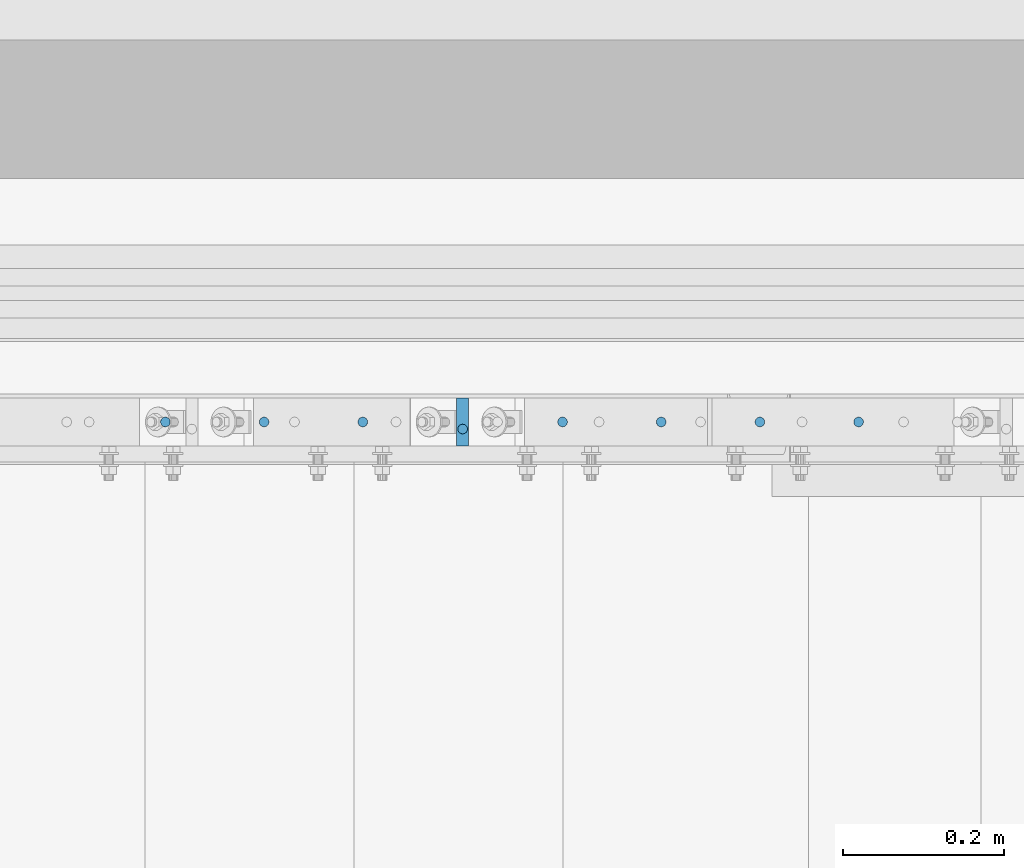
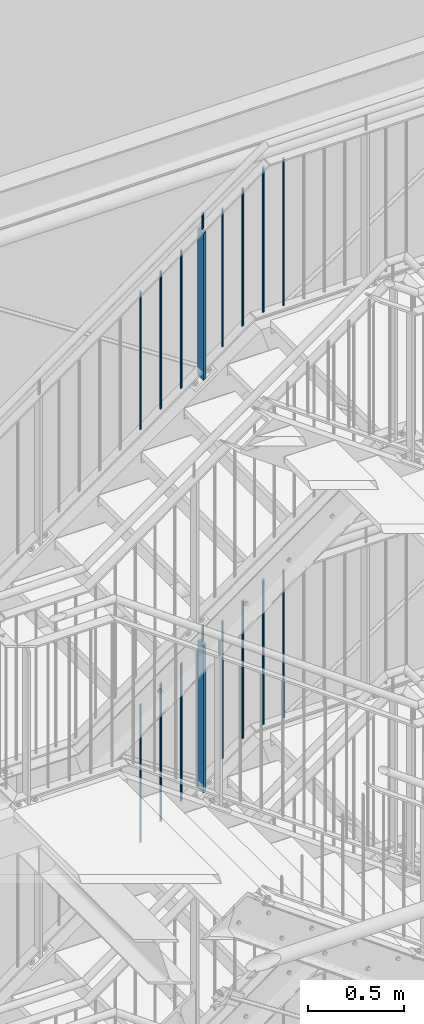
# One storey, part 81 of 825: 18 columns.
"""IFC2X3 building model written with IfcOpenShell, lengths in millimetres."""

from ifc_helpers import new_model, entity, si_unit, converted_unit, frame, origin, origin_with_axes, origin_2d, place, context, project, spatial, rectangle, circle, extrude, clip, halfspace, material, element, save


model = new_model("IFC2X3")

# Units and contexts
model_context = context("Model", 3, precision=1e-09, world=origin_with_axes())
ifc_project = project(units=[si_unit("LENGTHUNIT", "METRE", prefix="MILLI"), si_unit("AREAUNIT", "SQUARE_METRE"), si_unit("VOLUMEUNIT", "CUBIC_METRE"), converted_unit("PLANEANGLEUNIT", "DEGREE", entity("IfcPlaneAngleMeasure", 0.01745329), si_unit("PLANEANGLEUNIT", "RADIAN"), dimensions=[0, 0, 0, 0, 0, 0, 0])], contexts=[model_context])

# Site, building, storey
site_placement = place(None, origin_with_axes())
site = spatial("IfcSite", under=ifc_project, at=site_placement, Name="Cnopf'sche Kinderklinik", CompositionType="ELEMENT")
building_placement = place(site_placement, origin_with_axes())
building = spatial("IfcBuilding", under=site, at=building_placement, Name="Struktur 1", CompositionType="ELEMENT")
storey_placement = place(building_placement, origin_with_axes())
storey = spatial("IfcBuildingStorey", under=building, at=storey_placement, Name="Default Storey", CompositionType="ELEMENT", Elevation=0.0)

# Columns
ifc_material = material(Name="S235JR")
column_1_placement = place(None, frame((6671.713688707, 7356.736971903, 14657.456683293), z_axis=(0.0, 0.0, 1.0), x_axis=(1.0, 0.0, 0.0)))
element("IfcColumn", 1, at=column_1_placement, inside=storey, material=ifc_material, Name="Railing_Post_Stair#2", ObjectType="Railing_Post_Stair#2", context=model_context, shape_type="Clipping", body=[
    clip(clip(extrude(rectangle(XDim=15.0, YDim=60.0, at=origin_2d()), origin(), (0.0, 0.0, -1.0), 1013.143391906), halfspace(frame((-10876.723339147, -7356.736971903, -8848.638798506), z_axis=(-0.586383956, 0.0, 0.810033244), x_axis=(0.0, -1.0, 0.0)), True)), halfspace(frame((-11321.689805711, -7356.736971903, -8233.960264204), z_axis=(0.586383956, 0.0, -0.810033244), x_axis=(0.0, 1.0, 0.0)), True)),
])
column_2_placement = place(None, frame((6301.963641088, 7356.736971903, 14362.094106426), z_axis=(0.0, 0.0, 1.0), x_axis=(1.0, 0.0, 0.0)))
element("IfcColumn", 2, at=column_2_placement, inside=storey, material=ifc_material, Name="Railing_Picket_Stair#11", ObjectType="Railing_Picket_Stair#11", context=model_context, shape_type="Clipping", body=[
    clip(clip(extrude(circle(Radius=6.0, at=origin_2d()), origin(), (0.0, 0.0, -1.0), 896.017308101), halfspace(frame((-10951.939758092, -7356.736971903, -7938.597687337), z_axis=(0.586383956, 0.0, -0.810033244), x_axis=(0.0, 1.0, 0.0)), True)), halfspace(frame((-10536.292489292, -7356.736971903, -8512.774559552), z_axis=(-0.586383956, 0.0, 0.810033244), x_axis=(0.0, -1.0, 0.0)), True)),
])
column_3_placement = place(None, frame((6424.713664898, 7356.736971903, 14450.95298356), z_axis=(0.0, 0.0, 1.0), x_axis=(1.0, 0.0, 0.0)))
element("IfcColumn", 3, at=column_3_placement, inside=storey, material=ifc_material, Name="Railing_Picket_Stair#12", ObjectType="Railing_Picket_Stair#12", context=model_context, shape_type="Clipping", body=[
    clip(clip(extrude(circle(Radius=6.0, at=origin_2d()), origin(), (0.0, 0.0, -1.0), 896.017308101), halfspace(frame((-11074.689781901, -7356.736971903, -8027.456564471), z_axis=(0.586383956, 0.0, -0.810033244), x_axis=(0.0, 1.0, 0.0)), True)), halfspace(frame((-10659.042513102, -7356.736971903, -8601.633436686), z_axis=(-0.586383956, 0.0, 0.810033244), x_axis=(0.0, -1.0, 0.0)), True)),
])
column_4_placement = place(None, frame((6547.463688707, 7356.736971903, 14539.811860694), z_axis=(0.0, 0.0, 1.0), x_axis=(1.0, 0.0, 0.0)))
element("IfcColumn", 4, at=column_4_placement, inside=storey, material=ifc_material, Name="Railing_Picket_Stair#13", ObjectType="Railing_Picket_Stair#13", context=model_context, shape_type="Clipping", body=[
    clip(clip(extrude(circle(Radius=6.0, at=origin_2d()), origin(), (0.0, 0.0, -1.0), 896.017308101), halfspace(frame((-11197.439805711, -7356.736971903, -8116.315441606), z_axis=(0.586383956, 0.0, -0.810033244), x_axis=(0.0, 1.0, 0.0)), True)), halfspace(frame((-10781.792536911, -7356.736971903, -8690.49231382), z_axis=(-0.586383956, 0.0, 0.810033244), x_axis=(0.0, -1.0, 0.0)), True)),
])
column_5_placement = place(None, frame((6795.963688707, 7356.736971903, 14719.701283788), z_axis=(0.0, 0.0, 1.0), x_axis=(1.0, 0.0, 0.0)))
element("IfcColumn", 5, at=column_5_placement, inside=storey, material=ifc_material, Name="Railing_Picket_Stair#14", ObjectType="Railing_Picket_Stair#14", context=model_context, shape_type="Clipping", body=[
    clip(clip(extrude(circle(Radius=6.0, at=origin_2d()), origin(), (0.0, 0.0, -1.0), 896.017308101), halfspace(frame((-11445.939805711, -7356.736971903, -8296.204864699), z_axis=(0.586383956, 0.0, -0.810033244), x_axis=(0.0, 1.0, 0.0)), True)), halfspace(frame((-11030.292536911, -7356.736971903, -8870.381736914), z_axis=(-0.586383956, 0.0, 0.810033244), x_axis=(0.0, -1.0, 0.0)), True)),
])
column_6_placement = place(None, frame((6918.713712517, 7356.736971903, 14808.560160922), z_axis=(0.0, 0.0, 1.0), x_axis=(1.0, 0.0, 0.0)))
element("IfcColumn", 6, at=column_6_placement, inside=storey, material=ifc_material, Name="Railing_Picket_Stair#15", ObjectType="Railing_Picket_Stair#15", context=model_context, shape_type="Clipping", body=[
    clip(clip(extrude(circle(Radius=6.0, at=origin_2d()), origin(), (0.0, 0.0, -1.0), 896.017308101), halfspace(frame((-11568.68982952, -7356.736971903, -8385.063741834), z_axis=(0.586383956, 0.0, -0.810033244), x_axis=(0.0, 1.0, 0.0)), True)), halfspace(frame((-11153.042560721, -7356.736971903, -8959.240614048), z_axis=(-0.586383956, 0.0, 0.810033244), x_axis=(0.0, -1.0, 0.0)), True)),
])
column_7_placement = place(None, frame((7041.463736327, 7356.736971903, 14897.419038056), z_axis=(0.0, 0.0, 1.0), x_axis=(1.0, 0.0, 0.0)))
element("IfcColumn", 7, at=column_7_placement, inside=storey, material=ifc_material, Name="Railing_Picket_Landing#16", ObjectType="Railing_Picket_Landing#16", context=model_context, shape_type="Clipping", body=[
    clip(extrude(circle(Radius=6.0, at=origin_2d()), origin(), (0.0, 0.0, -1.0), 930.919037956), halfspace(frame((-11691.43985333, -7356.736971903, -8473.922618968), z_axis=(0.586383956, 0.0, -0.810033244), x_axis=(0.0, 1.0, 0.0)), True)),
])
column_8_placement = place(None, frame((7164.213760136, 7356.736971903, 14918.785281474), z_axis=(0.0, 0.0, 1.0), x_axis=(1.0, 0.0, 0.0)))
element("IfcColumn", 8, at=column_8_placement, inside=storey, material=ifc_material, Name="Railing_Picket_Landing#17", ObjectType="Railing_Picket_Landing#17", context=model_context, shape_type="Clipping", body=[
    clip(clip(extrude(circle(Radius=6.0, at=origin_2d()), origin(), (0.0, 0.0, -1.0), 965.770562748), halfspace(frame((-7164.213760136, -7356.736971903, -13.486281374), z_axis=(0.0, 0.0, -1.0), x_axis=(-1.0, 0.0, 0.0)), True)), halfspace(frame((-7164.213760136, -7356.736971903, -952.284281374), z_axis=(0.0, 0.0, 1.0), x_axis=(1.0, 0.0, 0.0)), True)),
])
column_9_placement = place(None, frame((6671.713688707, 7347.936971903, 14742.101744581), z_axis=(0.0, 0.0, 1.0), x_axis=(0.0, -1.0, 0.0)))
element("IfcColumn", 9, at=column_9_placement, inside=storey, material=ifc_material, Name="Bar#2", ObjectType="Bar#2", context=model_context, shape_type="Clipping", body=[
    clip(clip(extrude(circle(Radius=6.0, at=origin_2d()), origin(), (0.0, 0.0, -1.0), 120.950452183), halfspace(frame((7347.936971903, -11327.554818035, -8310.503372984), z_axis=(0.0, -0.586383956, 0.810033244), x_axis=(1.0, 0.0, 0.0)), True)), halfspace(frame((7347.936971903, -11375.052695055, -8244.889607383), z_axis=(0.0, 0.586383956, -0.810033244), x_axis=(-1.0, 0.0, 0.0)), True)),
])
column_10_placement = place(None, frame((6671.713688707, 7356.736971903, 17286.543887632), z_axis=(0.0, 0.0, 1.0), x_axis=(1.0, 0.0, 0.0)))
element("IfcColumn", 10, at=column_10_placement, inside=storey, material=ifc_material, Name="Railing_Post_Stair#2", ObjectType="Railing_Post_Stair#2", context=model_context, shape_type="Clipping", body=[
    clip(clip(extrude(rectangle(XDim=15.0, YDim=60.0, at=origin_2d()), origin(), (0.0, 0.0, -1.0), 1013.117713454), halfspace(frame((-12128.732198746, -7356.736971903, -9705.037253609), z_axis=(-0.584187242, 0.0, 0.811618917), x_axis=(0.0, -1.0, 0.0)), True)), halfspace(frame((-12572.958060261, -7356.736971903, -9087.868499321), z_axis=(0.584187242, 0.0, -0.811618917), x_axis=(0.0, 1.0, 0.0)), True)),
])
column_11_placement = place(None, frame((6301.963641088, 7356.736971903, 16992.759124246), z_axis=(0.0, 0.0, 1.0), x_axis=(1.0, 0.0, 0.0)))
element("IfcColumn", 11, at=column_11_placement, inside=storey, material=ifc_material, Name="Railing_Picket_Stair#11", ObjectType="Railing_Picket_Stair#11", context=model_context, shape_type="Clipping", body=[
    clip(clip(extrude(circle(Radius=6.0, at=origin_2d()), origin(), (0.0, 0.0, -1.0), 896.220460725), halfspace(frame((-12203.208012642, -7356.736971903, -8794.083735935), z_axis=(0.584187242, 0.0, -0.811618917), x_axis=(0.0, 1.0, 0.0)), True)), halfspace(frame((-11788.191513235, -7356.736971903, -9370.671544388), z_axis=(-0.584187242, 0.0, 0.811618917), x_axis=(0.0, -1.0, 0.0)), True)),
])
column_12_placement = place(None, frame((6424.713664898, 7356.736971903, 17081.112163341), z_axis=(0.0, 0.0, 1.0), x_axis=(1.0, 0.0, 0.0)))
element("IfcColumn", 12, at=column_12_placement, inside=storey, material=ifc_material, Name="Railing_Picket_Stair#12", ObjectType="Railing_Picket_Stair#12", context=model_context, shape_type="Clipping", body=[
    clip(clip(extrude(circle(Radius=6.0, at=origin_2d()), origin(), (0.0, 0.0, -1.0), 896.220460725), halfspace(frame((-12325.958036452, -7356.736971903, -8882.43677503), z_axis=(0.584187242, 0.0, -0.811618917), x_axis=(0.0, 1.0, 0.0)), True)), halfspace(frame((-11910.941537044, -7356.736971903, -9459.024583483), z_axis=(-0.584187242, 0.0, 0.811618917), x_axis=(0.0, -1.0, 0.0)), True)),
])
column_13_placement = place(None, frame((6547.463688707, 7356.736971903, 17169.465202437), z_axis=(0.0, 0.0, 1.0), x_axis=(1.0, 0.0, 0.0)))
element("IfcColumn", 13, at=column_13_placement, inside=storey, material=ifc_material, Name="Railing_Picket_Stair#13", ObjectType="Railing_Picket_Stair#13", context=model_context, shape_type="Clipping", body=[
    clip(clip(extrude(circle(Radius=6.0, at=origin_2d()), origin(), (0.0, 0.0, -1.0), 896.220460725), halfspace(frame((-12448.708060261, -7356.736971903, -8970.789814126), z_axis=(0.584187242, 0.0, -0.811618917), x_axis=(0.0, 1.0, 0.0)), True)), halfspace(frame((-12033.691560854, -7356.736971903, -9547.377622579), z_axis=(-0.584187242, 0.0, 0.811618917), x_axis=(0.0, -1.0, 0.0)), True)),
])
column_14_placement = place(None, frame((6795.963688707, 7356.736971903, 17348.330587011), z_axis=(0.0, 0.0, 1.0), x_axis=(1.0, 0.0, 0.0)))
element("IfcColumn", 14, at=column_14_placement, inside=storey, material=ifc_material, Name="Railing_Picket_Stair#14", ObjectType="Railing_Picket_Stair#14", context=model_context, shape_type="Clipping", body=[
    clip(clip(extrude(circle(Radius=6.0, at=origin_2d()), origin(), (0.0, 0.0, -1.0), 896.220460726), halfspace(frame((-12697.208060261, -7356.736971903, -9149.6551987), z_axis=(0.584187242, 0.0, -0.811618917), x_axis=(0.0, 1.0, 0.0)), True)), halfspace(frame((-12282.191560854, -7356.736971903, -9726.243007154), z_axis=(-0.584187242, 0.0, 0.811618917), x_axis=(0.0, -1.0, 0.0)), True)),
])
column_15_placement = place(None, frame((6918.713712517, 7356.736971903, 17436.683626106), z_axis=(0.0, 0.0, 1.0), x_axis=(1.0, 0.0, 0.0)))
element("IfcColumn", 15, at=column_15_placement, inside=storey, material=ifc_material, Name="Railing_Picket_Stair#15", ObjectType="Railing_Picket_Stair#15", context=model_context, shape_type="Clipping", body=[
    clip(clip(extrude(circle(Radius=6.0, at=origin_2d()), origin(), (0.0, 0.0, -1.0), 896.220460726), halfspace(frame((-12819.958084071, -7356.736971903, -9238.008237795), z_axis=(0.584187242, 0.0, -0.811618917), x_axis=(0.0, 1.0, 0.0)), True)), halfspace(frame((-12404.941584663, -7356.736971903, -9814.59604625), z_axis=(-0.584187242, 0.0, 0.811618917), x_axis=(0.0, -1.0, 0.0)), True)),
])
column_16_placement = place(None, frame((7041.463736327, 7356.736971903, 17525.036665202), z_axis=(0.0, 0.0, 1.0), x_axis=(1.0, 0.0, 0.0)))
element("IfcColumn", 16, at=column_16_placement, inside=storey, material=ifc_material, Name="Railing_Picket_Landing#16", ObjectType="Railing_Picket_Landing#16", context=model_context, shape_type="Clipping", body=[
    clip(extrude(circle(Radius=6.0, at=origin_2d()), origin(), (0.0, 0.0, -1.0), 931.036664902), halfspace(frame((-12942.70810788, -7356.736971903, -9326.361276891), z_axis=(0.584187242, 0.0, -0.811618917), x_axis=(0.0, 1.0, 0.0)), True)),
])
column_17_placement = place(None, frame((7164.213760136, 7356.736971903, 17546.285281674), z_axis=(0.0, 0.0, 1.0), x_axis=(1.0, 0.0, 0.0)))
element("IfcColumn", 17, at=column_17_placement, inside=storey, material=ifc_material, Name="Railing_Picket_Landing#17", ObjectType="Railing_Picket_Landing#17", context=model_context, shape_type="Clipping", body=[
    clip(clip(extrude(circle(Radius=6.0, at=origin_2d()), origin(), (0.0, 0.0, -1.0), 965.770562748), halfspace(frame((-7164.213760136, -7356.736971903, -13.486281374), z_axis=(0.0, 0.0, -1.0), x_axis=(-1.0, 0.0, 0.0)), True)), halfspace(frame((-7164.213760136, -7356.736971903, -952.284281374), z_axis=(0.0, 0.0, 1.0), x_axis=(1.0, 0.0, 0.0)), True)),
])
column_18_placement = place(None, frame((6671.713688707, 7347.936971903, 17371.218948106), z_axis=(0.0, 0.0, 1.0), x_axis=(0.0, -1.0, 0.0)))
element("IfcColumn", 18, at=column_18_placement, inside=storey, material=ifc_material, Name="Bar#2", ObjectType="Bar#2", context=model_context, shape_type="Clipping", body=[
    clip(clip(extrude(circle(Radius=6.0, at=origin_2d()), origin(), (0.0, 0.0, -1.0), 120.909520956), halfspace(frame((7347.936971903, -12578.801101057, -9164.42574739), z_axis=(0.0, -0.584187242, 0.811618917), x_axis=(1.0, 0.0, 0.0)), True)), halfspace(frame((7347.936971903, -12626.213674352, -9098.554844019), z_axis=(0.0, 0.584187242, -0.811618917), x_axis=(-1.0, 0.0, 0.0)), True)),
])

save(model, "model.ifc")
